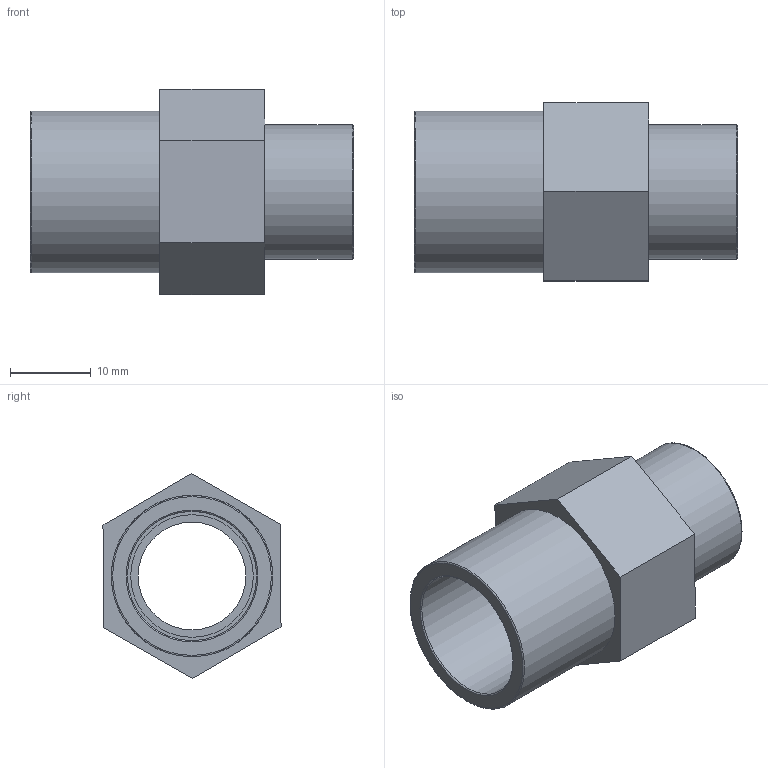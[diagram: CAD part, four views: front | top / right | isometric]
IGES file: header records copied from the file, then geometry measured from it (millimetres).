
Global section: file name: 052102016003.ipt; native system: Autodesk Inventor 2015; preprocessor: unknown; author: KIM; date: 20171207.165351; units: millimetre
Bounding box: 40 x 22.05 x 25.4 mm (x, y, z)
Volume: 5893.4 mm3; surface area: 4984.5 mm2
Topology: 1 solids, 1 shells, 21 faces, 55 edges, 40 vertices
Faces by surface type: plane 12, revolution 7, cylinder 2
Full cylindrical faces by diameter (mm): 16.662 x1, 20 x1
